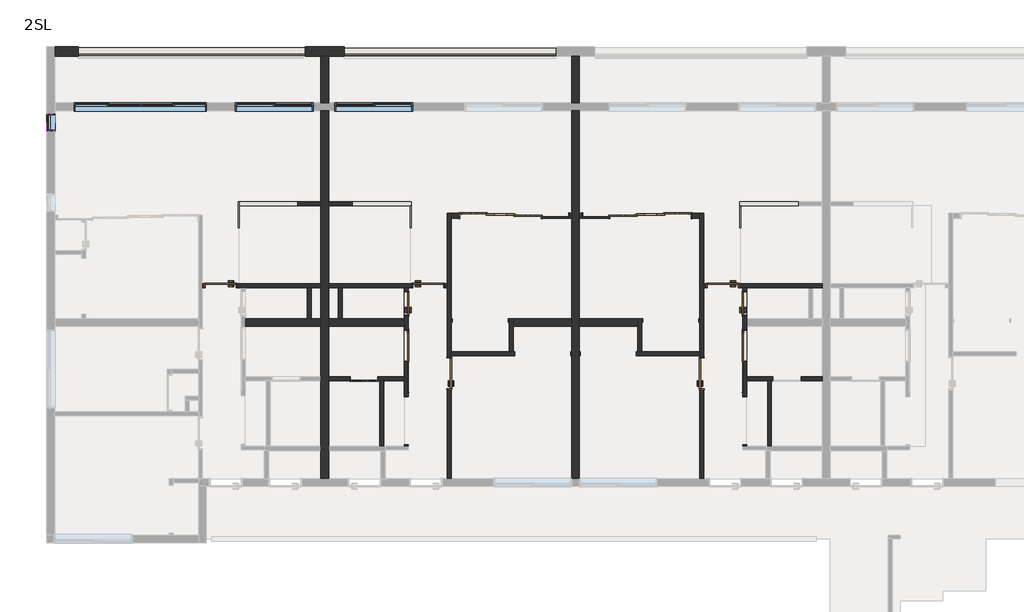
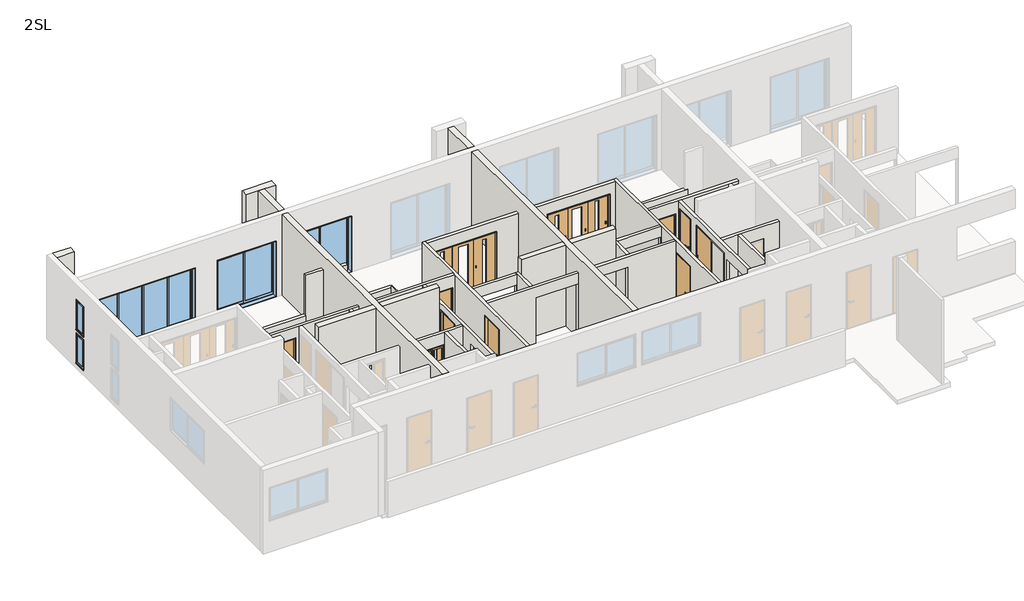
# One storey, part 2 of 3: 37 walls, 12 doors, 5 windows, 2 plates.
"""IFC4 building model written with IfcOpenShell, lengths in millimetres."""

from ifc_helpers import new_model, si_unit, frame, origin, place, context, project, spatial, polyline, outline, extrude, faceted_brep, transform, mapped, element, save
from components import door_a3db7c72, door_c7dcdbed, door_8f2de950, door_3b96e66a, door_aabc7979, door_3f60c47c, door_12b42705, door_31a51f76, door_d265da5f, system_panel_37aab131, system_panel_5692cc67, window_4c3e1407, window_a2a98c4b, window_ec430ee0, window_7edd47ae, w0450_h1100_93ba837a

model = new_model("IFC4")

# Units and contexts
model_context = context("Model", 3, world=origin())
ifc_project = project(units=[si_unit("LENGTHUNIT", "METRE", prefix="MILLI")], contexts=[model_context])

# Site, building, storey
site = spatial("IfcSite", under=ifc_project)
building = spatial("IfcBuilding", under=site)
storey = spatial("IfcBuildingStorey", under=building, Name="2SL", Elevation=4000.0)

# Doors
placement = place(None, origin())
door_shape = door_a3db7c72(model_context)
element("IfcDoor", 1, ObjectType="木製_片開き_フラッシュ : WD-2 w600h2000", at=placement, inside=storey, context=model_context, shape_type="MappedRepresentation", body=[
    mapped(door_shape, transform((7254.3805905, 3696.254513, 4210.0), x_axis=(0.0, 1.0, 0.0), y_axis=(-1.0, 0.0, 0.0), z_axis=(0.0, 0.0, 1.0))),
])
door_2_shape = door_c7dcdbed(model_context)
element("IfcDoor", 2, ObjectType="木製_片開き_フラッシュ : WD-2 w600h2000", at=placement, inside=storey, context=model_context, shape_type="MappedRepresentation", body=[
    mapped(door_2_shape, transform((-1445.6194095, 3696.254513, 4210.0), x_axis=(0.0, 1.0, 0.0), y_axis=(-1.0, 0.0, 0.0), z_axis=(0.0, 0.0, 1.0))),
])
door_3_shape = door_8f2de950(model_context)
element("IfcDoor", 3, ObjectType="木製_片開き_フラッシュ : WD-1\u3000w800h2000", at=placement, inside=storey, context=model_context, shape_type="MappedRepresentation", body=[
    mapped(door_3_shape, transform((-6225.6194095, 4160.2598658, 4060.0), x_axis=(-1.0, 0.0, 0.0), y_axis=(0.0, -1.0, 0.0), z_axis=(0.0, 0.0, 1.0))),
])
element("IfcDoor", 4, ObjectType="木製_片開き_フラッシュ : WD-1\u3000w800h2000", at=placement, inside=storey, context=model_context, shape_type="MappedRepresentation", body=[
    mapped(door_3_shape, transform((-345.6194095, 1900.2598658, 4060.0), x_axis=(0.0, 1.0, 0.0), y_axis=(-1.0, 0.0, 0.0), z_axis=(0.0, 0.0, 1.0))),
])
element("IfcDoor", 5, ObjectType="木製_片開き_フラッシュ : WD-1\u3000w800h2000", at=placement, inside=storey, context=model_context, shape_type="MappedRepresentation", body=[
    mapped(door_3_shape, transform((6694.3805905, 4160.2598658, 4000.0), x_axis=(-1.0, 0.0, 0.0), y_axis=(0.0, -1.0, 0.0), z_axis=(0.0, 0.0, 1.0))),
])
door_4_shape = door_3b96e66a(model_context)
element("IfcDoor", 6, ObjectType="木製_片開き_フラッシュ : WD-1\u3000w800h2000", at=placement, inside=storey, context=model_context, shape_type="MappedRepresentation", body=[
    mapped(door_4_shape, transform((-885.6194095, 4160.2598658, 4000.0), x_axis=(1.0, 0.0, 0.0), y_axis=(0.0, 1.0, 0.0), z_axis=(0.0, 0.0, 1.0))),
])
element("IfcDoor", 7, ObjectType="木製_片開き_フラッシュ : WD-1\u3000w800h2000", at=placement, inside=storey, context=model_context, shape_type="MappedRepresentation", body=[
    mapped(door_4_shape, transform((6154.3805905, 1900.2598658, 4060.0), x_axis=(0.0, 1.0, 0.0), y_axis=(-1.0, 0.0, 0.0), z_axis=(0.0, 0.0, 1.0))),
])
door_5_shape = door_aabc7979(model_context)
element("IfcDoor", 8, ObjectType="木製_折戸2枚_フラッシュ(UB) : UB-1 w600h2000", at=placement, inside=storey, context=model_context, shape_type="MappedRepresentation", body=[
    mapped(door_5_shape, transform((-2535.6194095, 1760.2598658, 4000.0), x_axis=(-1.0, 0.0, 0.0), y_axis=(0.0, -1.0, 0.0), z_axis=(0.0, 0.0, 1.0))),
])
door_6_shape = door_3f60c47c(model_context)
element("IfcDoor", 9, ObjectType="木製_片引き_フラッシュ : WD-4 w800h2000", at=placement, inside=storey, context=model_context, shape_type="MappedRepresentation", body=[
    mapped(door_6_shape, transform((-1445.6194095, 2610.719009, 4210.0), x_axis=(0.0, -1.0, 0.0), y_axis=(1.0, 0.0, 0.0), z_axis=(0.0, 0.0, 1.0))),
])
door_7_shape = door_12b42705(model_context)
element("IfcDoor", 10, ObjectType="木製_片引き_フラッシュ : WD-4 w800h2000", at=placement, inside=storey, context=model_context, shape_type="MappedRepresentation", body=[
    mapped(door_7_shape, transform((7254.3805905, 2610.719009, 4210.0), x_axis=(0.0, -1.0, 0.0), y_axis=(1.0, 0.0, 0.0), z_axis=(0.0, 0.0, 1.0))),
])
door_8_shape = door_31a51f76(model_context)
element("IfcDoor", 11, ObjectType="木製_片引き3枚_フラッシュ2 : WD-9 w2100h2000", at=placement, inside=storey, context=model_context, shape_type="MappedRepresentation", body=[
    mapped(door_8_shape, transform((979.9160944, 5960.2598658, 4060.0), x_axis=(1.0, 0.0, 0.0), y_axis=(0.0, 1.0, 0.0), z_axis=(0.0, 0.0, 1.0))),
])
door_9_shape = door_d265da5f(model_context)
element("IfcDoor", 12, ObjectType="木製_片引き3枚_フラッシュ2 : WD-9 w2100h2000", at=placement, inside=storey, context=model_context, shape_type="MappedRepresentation", body=[
    mapped(door_9_shape, transform((4828.8450865, 5960.2598658, 4060.0), x_axis=(-1.0, 0.0, 0.0), y_axis=(0.0, -1.0, 0.0), z_axis=(0.0, 0.0, 1.0))),
])

# Plates
system_panel_shape = system_panel_37aab131(model_context)
element("IfcPlate", 13, ObjectType="システム パネル : System Panel", at=placement, inside=storey, context=model_context, shape_type="MappedRepresentation", body=[
    mapped(system_panel_shape, transform((-320.6194095, 10097.7598658, 4000.0), x_axis=(-1.0, 0.0, 0.0), y_axis=(0.0, -1.0, 0.0), z_axis=(0.0, 0.0, 1.0))),
])
system_panel_2_shape = system_panel_5692cc67(model_context)
element("IfcPlate", 14, ObjectType="システム パネル : System Panel", at=placement, inside=storey, context=model_context, shape_type="MappedRepresentation", body=[
    mapped(system_panel_2_shape, transform((-6970.6194095, 10097.7598658, 4000.0), x_axis=(1.0, 0.0, 0.0), y_axis=(0.0, 1.0, 0.0), z_axis=(0.0, 0.0, 1.0))),
])

# Walls
element("IfcWall", 15, ObjectType="(F)30", at=placement, inside=storey, context=model_context, shape_type="Brep", body=[
    faceted_brep([(-5775.1194095, 6315.254513, 4113.4303939), (-5775.1194095, 5645.254513, 4113.4303939), (-5775.1194095, 5645.254513, 5060.0), (-5775.1194095, 6315.254513, 5060.0), (-5745.1194095, 6315.254513, 4113.4303939), (-5745.1194095, 6315.254513, 5060.0), (-5745.1194095, 6215.254513, 5060.0), (-5745.1194095, 5645.254513, 5060.0), (-5745.1194095, 5645.254513, 4113.4303939)], [[[0, 1, 2, 3]], [[4, 5, 6, 7, 8]], [[1, 0, 4, 8]], [[2, 1, 8, 7]], [[3, 2, 7, 6, 5]], [[0, 3, 5, 4]]]),
])
element("IfcWall", 16, ObjectType="(F)30", at=placement, inside=storey, context=model_context, shape_type="Brep", body=[
    faceted_brep([(-1346.1194095, 6215.254513, 4060.0), (-1346.1194095, 5645.254513, 4060.0), (-1346.1194095, 5645.254513, 5120.0), (-1346.1194095, 6215.254513, 5120.0), (-1316.1194095, 6215.254513, 4060.0), (-1316.1194095, 6215.254513, 5060.0), (-1316.1194095, 6215.254513, 5120.0), (-1316.1194095, 5645.254513, 5120.0), (-1316.1194095, 5645.254513, 4060.0)], [[[0, 1, 2, 3]], [[4, 5, 6, 7, 8]], [[1, 0, 4, 8]], [[2, 1, 8, 7]], [[3, 2, 7, 6]], [[0, 3, 6, 5, 4]]]),
])
element("IfcWall", 17, ObjectType="(F)30", at=placement, inside=storey, context=model_context, shape_type="Brep", body=[
    faceted_brep([(7124.8805905, 6215.254513, 4060.0), (7124.8805905, 5645.254513, 4060.0), (7124.8805905, 5645.254513, 5120.0), (7124.8805905, 6215.254513, 5120.0), (7124.8805905, 6215.254513, 5060.0), (7154.8805905, 6215.254513, 4060.0), (7154.8805905, 6215.254513, 5120.0), (7154.8805905, 5645.254513, 5120.0), (7154.8805905, 5645.254513, 4060.0)], [[[0, 1, 2, 3, 4]], [[5, 6, 7, 8]], [[1, 0, 5, 8]], [[2, 1, 8, 7]], [[3, 2, 7, 6]], [[0, 4, 3, 6, 5]]]),
])
element("IfcWall", 18, ObjectType="(L)100", at=placement, inside=storey, context=model_context, shape_type="Brep", body=[
    faceted_brep([(-4245.6194095, 6315.254513, 4000.0), (-5745.1194095, 6315.254513, 4000.0), (-5745.1194095, 6315.254513, 4113.4303939), (-5745.1194095, 6315.254513, 5060.0), (-4245.6194095, 6315.254513, 5060.0), (-4245.6194095, 6315.254513, 4100.0), (-4245.6194095, 6215.254513, 4000.0), (-4245.6194095, 6215.254513, 4100.0), (-4245.6194095, 6215.254513, 5060.0), (-5745.1194095, 6215.254513, 5060.0), (-5745.1194095, 6215.254513, 4000.0)], [[[0, 1, 2, 3, 4, 5]], [[6, 7, 8, 9, 10]], [[1, 0, 6, 10]], [[4, 3, 9, 8]], [[0, 5, 4, 8, 7, 6]], [[3, 2, 1, 10, 9]]]),
])
element("IfcWall", 19, ObjectType="(L)100", at=placement, inside=storey, context=model_context, shape_type="SweptSolid", body=[
    extrude(outline(polyline([(-3995.6194095, 3310.2598658), (-3995.6194095, 4110.2598658), (-3895.6194095, 4110.2598658), (-3895.6194095, 3310.2598658), (-3995.6194095, 3310.2598658)])), frame((0.0, 0.0, 4000.0), z_axis=(0.0, 0.0, 1.0), x_axis=(1.0, 0.0, 0.0)), (0.0, 0.0, 1.0), 2460.0),
])
element("IfcWall", 20, ObjectType="(L)100", at=placement, inside=storey, context=model_context, shape_type="Brep", body=[
    faceted_brep([(-3645.6194095, 4210.2598658, 4060.0), (-5805.6194095, 4210.2598658, 4060.0), (-5805.6194095, 4210.2598658, 6080.0), (-6645.6194095, 4210.2598658, 6080.0), (-6645.6194095, 4210.2598658, 4060.0), (-6695.6194095, 4210.2598658, 4060.0), (-6695.6194095, 4210.2598658, 6460.0), (-3645.6194095, 4210.2598658, 6460.0), (-5805.6194095, 4110.2598658, 6080.0), (-5805.6194095, 4110.2598658, 4060.0), (-5695.6194095, 4110.2598658, 4060.0), (-5595.6194095, 4110.2598658, 4060.0), (-3645.6194095, 4110.2598658, 4060.0), (-3645.6194095, 4110.2598658, 6460.0), (-3895.6194095, 4110.2598658, 6460.0), (-3995.6194095, 4110.2598658, 6460.0), (-5595.6194095, 4110.2598658, 6460.0), (-5695.6194095, 4110.2598658, 6460.0), (-6695.6194095, 4110.2598658, 6460.0), (-6695.6194095, 4110.2598658, 4060.0), (-6645.6194095, 4110.2598658, 4060.0), (-6645.6194095, 4110.2598658, 6080.0)], [[[0, 1, 2, 3, 4, 5, 6, 7]], [[8, 9, 10, 11, 12, 13, 14, 15, 16, 17, 18, 19, 20, 21]], [[12, 11, 10, 9, 1, 0]], [[20, 19, 5, 4]], [[7, 6, 18, 17, 16, 15, 14, 13]], [[0, 7, 13, 12]], [[6, 5, 19, 18]], [[4, 3, 21, 20]], [[2, 1, 9, 8]], [[3, 2, 8, 21]]]),
])
element("IfcWall", 21, ObjectType="(L)100", at=placement, inside=storey, context=model_context, shape_type="Brep", body=[
    faceted_brep([(-395.6194095, 1480.2598658, 6080.0), (-395.6194095, 1480.2598658, 4060.0), (-395.6194095, -809.7401342, 4060.0), (-395.6194095, -809.7401342, 6460.0), (-395.6194095, 4110.2598658, 6460.0), (-395.6194095, 4210.2598658, 6460.0), (-395.6194095, 6022.7598658, 6460.0), (-395.6194095, 6022.7598658, 4060.0), (-395.6194095, 2320.2598658, 4060.0), (-395.6194095, 2320.2598658, 6080.0), (-295.6194095, -809.7401342, 4060.0), (-295.6194095, 1480.2598658, 4060.0), (-295.6194095, 1480.2598658, 6080.0), (-295.6194095, 2320.2598658, 6080.0), (-295.6194095, 2320.2598658, 4060.0), (-295.6194095, 2360.2598658, 4060.0), (-295.6194095, 2460.2598658, 4060.0), (-295.6194095, 5897.7598658, 4060.0), (-295.6194095, 6022.7598658, 4060.0), (-295.6194095, 6022.7598658, 6460.0), (-295.6194095, 5897.7598658, 6460.0), (-295.6194095, 3310.2598658, 6460.0), (-295.6194095, 3210.2598658, 6460.0), (-295.6194095, 2460.2598658, 6460.0), (-295.6194095, 2360.2598658, 6460.0), (-295.6194095, -809.7401342, 6460.0)], [[[0, 1, 2, 3, 4, 5, 6, 7, 8, 9]], [[10, 11, 12, 13, 14, 15, 16, 17, 18, 19, 20, 21, 22, 23, 24, 25]], [[2, 1, 11, 10]], [[8, 7, 18, 17, 16, 15, 14]], [[6, 5, 4, 3, 25, 24, 23, 22, 21, 20, 19]], [[7, 6, 19, 18]], [[3, 2, 10, 25]], [[14, 13, 9, 8]], [[12, 11, 1, 0]], [[13, 12, 0, 9]]]),
])
element("IfcWall", 22, ObjectType="(L)100", at=placement, inside=storey, context=model_context, shape_type="Brep", body=[
    faceted_brep([(2804.3805905, 2460.2598658, 4060.0), (2784.3805905, 2460.2598658, 4060.0), (2784.3805905, 2460.2598658, 6080.0), (1344.3805905, 2460.2598658, 6080.0), (1344.3805905, 2460.2598658, 4060.0), (-295.6194095, 2460.2598658, 4060.0), (-295.6194095, 2460.2598658, 6460.0), (1204.3805905, 2460.2598658, 6460.0), (1304.3805905, 2460.2598658, 6460.0), (2804.3805905, 2460.2598658, 6460.0), (2784.3805905, 2360.2598658, 6080.0), (2784.3805905, 2360.2598658, 4060.0), (2804.3805905, 2360.2598658, 4060.0), (2804.3805905, 2360.2598658, 6460.0), (-295.6194095, 2360.2598658, 6460.0), (-295.6194095, 2360.2598658, 4060.0), (1344.3805905, 2360.2598658, 4060.0), (1344.3805905, 2360.2598658, 6080.0)], [[[0, 1, 2, 3, 4, 5, 6, 7, 8, 9]], [[10, 11, 12, 13, 14, 15, 16, 17]], [[12, 11, 1, 0]], [[16, 15, 5, 4]], [[9, 8, 7, 6, 14, 13]], [[0, 9, 13, 12]], [[6, 5, 15, 14]], [[4, 3, 17, 16]], [[2, 1, 11, 10]], [[3, 2, 10, 17]]]),
])
element("IfcWall", 23, ObjectType="(L)100", at=placement, inside=storey, context=model_context, shape_type="Brep", body=[
    faceted_brep([(1204.3805905, 3310.2598658, 4000.0), (1204.3805905, 3210.2598658, 4000.0), (1204.3805905, 2460.2598658, 4000.0), (1204.3805905, 2460.2598658, 6460.0), (1204.3805905, 3210.2598658, 6460.0), (1204.3805905, 3310.2598658, 6460.0), (1304.3805905, 3310.2598658, 4000.0), (1304.3805905, 3310.2598658, 6460.0), (1304.3805905, 2460.2598658, 6460.0), (1304.3805905, 2460.2598658, 4000.0), (1304.3805905, 3110.2598658, 4000.0)], [[[0, 1, 2, 3, 4, 5]], [[6, 7, 8, 9, 10]], [[2, 1, 0, 6, 10, 9]], [[5, 4, 3, 8, 7]], [[0, 5, 7, 6]], [[3, 2, 9, 8]]]),
])
element("IfcWall", 24, ObjectType="(L)100", at=placement, inside=storey, context=model_context, shape_type="Brep", body=[
    faceted_brep([(-1395.6194095, 4110.2598658, 6460.0), (-1395.6194095, 30.2598658, 6460.0), (-1395.6194095, 30.2598658, 4060.0), (-1395.6194095, 60.2598658, 4060.0), (-1395.6194095, 60.2598658, 6080.0), (-1395.6194095, 1300.2598658, 6080.0), (-1395.6194095, 1300.2598658, 4060.0), (-1395.6194095, 4110.2598658, 4060.0), (-1395.6194095, 1396.254513, 6230.0), (-1395.6194095, 3036.254513, 6230.0), (-1395.6194095, 3036.254513, 4210.0), (-1395.6194095, 1396.254513, 4210.0), (-1395.6194095, 4016.254513, 6230.0), (-1395.6194095, 4016.254513, 4210.0), (-1395.6194095, 3376.254513, 4210.0), (-1395.6194095, 3376.254513, 6230.0), (-1495.6194095, 30.2598658, 6460.0), (-1495.6194095, 1710.2598658, 6460.0), (-1495.6194095, 1810.2598658, 6460.0), (-1495.6194095, 4110.2598658, 6460.0), (-1495.6194095, 4110.2598658, 4060.0), (-1495.6194095, 1300.2598658, 4060.0), (-1495.6194095, 1300.2598658, 6080.0), (-1495.6194095, 60.2598658, 6080.0), (-1495.6194095, 60.2598658, 4060.0), (-1495.6194095, 30.2598658, 4060.0), (-1495.6194095, 3036.254513, 6230.0), (-1495.6194095, 2196.254513, 6230.0), (-1495.6194095, 2196.254513, 4210.0), (-1495.6194095, 3036.254513, 4210.0), (-1495.6194095, 4016.254513, 4210.0), (-1495.6194095, 4016.254513, 6230.0), (-1495.6194095, 3376.254513, 6230.0), (-1495.6194095, 3376.254513, 4210.0), (-1425.6194095, 1396.254513, 6230.0), (-1425.6194095, 2196.254513, 6230.0), (-1425.6194095, 2196.254513, 4210.0), (-1425.6194095, 1396.254513, 4210.0)], [[[0, 1, 2, 3, 4, 5, 6, 7], [8, 9, 10, 11], [12, 13, 14, 15]], [[16, 17, 18, 19, 20, 21, 22, 23, 24, 25], [26, 27, 28, 29], [30, 31, 32, 33]], [[20, 7, 6, 21]], [[2, 25, 24, 3]], [[1, 0, 19, 18, 17, 16]], [[0, 7, 20, 19]], [[2, 1, 16, 25]], [[5, 22, 21, 6]], [[23, 4, 3, 24]], [[22, 5, 4, 23]], [[34, 35, 27, 26, 9, 8]], [[9, 26, 29, 10]], [[36, 37, 11, 10, 29, 28]], [[35, 36, 28, 27]], [[35, 34, 37, 36]], [[37, 34, 8, 11]], [[12, 31, 30, 13]], [[13, 30, 33, 14]], [[14, 33, 32, 15]], [[31, 12, 15, 32]]]),
])
element("IfcWall", 25, ObjectType="(L)100", at=placement, inside=storey, context=model_context, shape_type="SweptSolid", body=[
    extrude(outline(polyline([(-3445.6194095, 6315.254513), (-2845.6194095, 6315.254513), (-2845.6194095, 6215.254513), (-3445.6194095, 6215.254513), (-3445.6194095, 6315.254513)])), frame((0.0, 0.0, 4000.0), z_axis=(0.0, 0.0, 1.0), x_axis=(1.0, 0.0, 0.0)), (0.0, 0.0, 1.0), 2400.0),
])
element("IfcWall", 26, ObjectType="(L)100", at=placement, inside=storey, context=model_context, shape_type="Brep", body=[
    faceted_brep([(-2920.6194095, 6215.254513, 4060.0), (-1346.1194095, 6215.254513, 4060.0), (-1316.1194095, 6215.254513, 4060.0), (-1316.1194095, 6215.254513, 5060.0), (-2920.6194095, 6215.254513, 5060.0), (-2920.6194095, 6315.254513, 4060.0), (-2920.6194095, 6315.254513, 5060.0), (-1316.1194095, 6315.254513, 5060.0), (-1316.1194095, 6315.254513, 4060.0)], [[[0, 1, 2, 3, 4]], [[5, 6, 7, 8]], [[2, 1, 0, 5, 8]], [[4, 3, 7, 6]], [[0, 4, 6, 5]], [[3, 2, 8, 7]]]),
])
element("IfcWall", 27, ObjectType="(L)100", at=placement, inside=storey, context=model_context, shape_type="SweptSolid", body=[
    extrude(outline(polyline([(-3195.6194095, 3310.2598658), (-3195.6194095, 4110.2598658), (-3095.6194095, 4110.2598658), (-3095.6194095, 3310.2598658), (-3195.6194095, 3310.2598658)])), frame((0.0, 0.0, 4000.0), z_axis=(0.0, 0.0, 1.0), x_axis=(1.0, 0.0, 0.0)), (0.0, 0.0, 1.0), 2460.0),
])
element("IfcWall", 28, ObjectType="(L)100", at=placement, inside=storey, context=model_context, shape_type="Brep", body=[
    faceted_brep([(-2165.6194095, 1710.2598658, 6020.0), (-2165.6194095, 1710.2598658, 4000.0), (-2135.6194095, 1710.2598658, 4000.0), (-2035.6194095, 1710.2598658, 4000.0), (-1495.6194095, 1710.2598658, 4000.0), (-1495.6194095, 1710.2598658, 6460.0), (-2035.6194095, 1710.2598658, 6460.0), (-2135.6194095, 1710.2598658, 6460.0), (-3445.6194095, 1710.2598658, 6460.0), (-3445.6194095, 1710.2598658, 4000.0), (-2905.6194095, 1710.2598658, 4000.0), (-2905.6194095, 1710.2598658, 6020.0), (-1495.6194095, 1810.2598658, 4000.0), (-2165.6194095, 1810.2598658, 4000.0), (-2165.6194095, 1810.2598658, 6020.0), (-2905.6194095, 1810.2598658, 6020.0), (-2905.6194095, 1810.2598658, 4000.0), (-3445.6194095, 1810.2598658, 4000.0), (-3445.6194095, 1810.2598658, 6460.0), (-1495.6194095, 1810.2598658, 6460.0)], [[[0, 1, 2, 3, 4, 5, 6, 7, 8, 9, 10, 11]], [[12, 13, 14, 15, 16, 17, 18, 19]], [[4, 3, 2, 1, 13, 12]], [[10, 9, 17, 16]], [[8, 7, 6, 5, 19, 18]], [[5, 4, 12, 19]], [[9, 8, 18, 17]], [[16, 15, 11, 10]], [[14, 13, 1, 0]], [[15, 14, 0, 11]]]),
])
element("IfcWall", 29, ObjectType="(L)100", at=placement, inside=storey, context=model_context, shape_type="Brep", body=[
    faceted_brep([(-3445.6194095, 4110.2598658, 4000.0), (-3195.6194095, 4110.2598658, 4000.0), (-3095.6194095, 4110.2598658, 4000.0), (-1305.6194095, 4110.2598658, 4000.0), (-1305.6194095, 4110.2598658, 6020.0), (-465.6194095, 4110.2598658, 6020.0), (-465.6194095, 4110.2598658, 4000.0), (-395.6194095, 4110.2598658, 4000.0), (-395.6194095, 4110.2598658, 6460.0), (-1395.6194095, 4110.2598658, 6460.0), (-1495.6194095, 4110.2598658, 6460.0), (-3095.6194095, 4110.2598658, 6460.0), (-3195.6194095, 4110.2598658, 6460.0), (-3445.6194095, 4110.2598658, 6460.0), (-1305.6194095, 4210.2598658, 6020.0), (-1305.6194095, 4210.2598658, 4000.0), (-3445.6194095, 4210.2598658, 4000.0), (-3445.6194095, 4210.2598658, 6460.0), (-395.6194095, 4210.2598658, 6460.0), (-395.6194095, 4210.2598658, 4000.0), (-465.6194095, 4210.2598658, 4000.0), (-465.6194095, 4210.2598658, 6020.0)], [[[0, 1, 2, 3, 4, 5, 6, 7, 8, 9, 10, 11, 12, 13]], [[14, 15, 16, 17, 18, 19, 20, 21]], [[16, 15, 3, 2, 1, 0]], [[20, 19, 7, 6]], [[13, 12, 11, 10, 9, 8, 18, 17]], [[8, 7, 19, 18]], [[0, 13, 17, 16]], [[6, 5, 21, 20]], [[4, 3, 15, 14]], [[5, 4, 14, 21]]]),
])
element("IfcWall", 30, ObjectType="(L)100", at=placement, inside=storey, context=model_context, shape_type="Brep", body=[
    faceted_brep([(-4245.6194095, 6215.254513, 4100.0), (-3645.6194095, 6215.254513, 4100.0), (-3645.6194095, 6215.254513, 6500.0), (-4245.6194095, 6215.254513, 6500.0), (-4245.6194095, 6215.254513, 5060.0), (-4245.6194095, 6315.254513, 4100.0), (-4245.6194095, 6315.254513, 5060.0), (-4245.6194095, 6315.254513, 6500.0), (-3645.6194095, 6315.254513, 6500.0), (-3645.6194095, 6315.254513, 4100.0)], [[[0, 1, 2, 3, 4]], [[5, 6, 7, 8, 9]], [[1, 0, 5, 9]], [[3, 2, 8, 7]], [[0, 4, 3, 7, 6, 5]], [[2, 1, 9, 8]]]),
])
element("IfcWall", 31, ObjectType="(L)100", at=placement, inside=storey, context=model_context, shape_type="SweptSolid", body=[
    extrude(outline(polyline([(4000.0, -295.6194095), (4000.0, 1204.3805905), (6460.0, 1204.3805905), (6460.0, -295.6194095), (4000.0, -295.6194095)]), holes=[polyline([(4060.0, 1174.3805905), (4060.0, -265.6194095), (6080.0, -265.6194095), (6080.0, 1174.3805905), (4060.0, 1174.3805905)])]), frame((0.0, 3210.2598658, 0.0), z_axis=(0.0, 1.0, 0.0), x_axis=(0.0, 0.0, 1.0)), (0.0, 0.0, 1.0), 100.0),
])
element("IfcWall", 32, ObjectType="(L)100", at=placement, inside=storey, context=model_context, shape_type="SweptSolid", body=[
    extrude(outline(polyline([(-2135.6194095, 30.2598658), (-2135.6194095, 1710.2598658), (-2035.6194095, 1710.2598658), (-2035.6194095, 30.2598658), (-2135.6194095, 30.2598658)])), frame((0.0, 0.0, 4000.0), z_axis=(0.0, 0.0, 1.0), x_axis=(1.0, 0.0, 0.0)), (0.0, 0.0, 1.0), 2460.0),
])
element("IfcWall", 33, ObjectType="(L)100", at=placement, inside=storey, context=model_context, shape_type="Brep", body=[
    faceted_brep([(6104.3805905, 1480.2598658, 6080.0), (6104.3805905, 1480.2598658, 4060.0), (6104.3805905, -809.7401342, 4060.0), (6104.3805905, -809.7401342, 6460.0), (6104.3805905, 2360.2598658, 6460.0), (6104.3805905, 2460.2598658, 6460.0), (6104.3805905, 3210.2598658, 6460.0), (6104.3805905, 3310.2598658, 6460.0), (6104.3805905, 5897.7598658, 6460.0), (6104.3805905, 6022.7598658, 6460.0), (6104.3805905, 6022.7598658, 4060.0), (6104.3805905, 5897.7598658, 4060.0), (6104.3805905, 2460.2598658, 4060.0), (6104.3805905, 2360.2598658, 4060.0), (6104.3805905, 2320.2598658, 4060.0), (6104.3805905, 2320.2598658, 6080.0), (6204.3805905, -809.7401342, 4060.0), (6204.3805905, 1480.2598658, 4060.0), (6204.3805905, 1480.2598658, 6080.0), (6204.3805905, 2320.2598658, 6080.0), (6204.3805905, 2320.2598658, 4060.0), (6204.3805905, 6022.7598658, 4060.0), (6204.3805905, 6022.7598658, 6460.0), (6204.3805905, 4210.2598658, 6460.0), (6204.3805905, 4110.2598658, 6460.0), (6204.3805905, -809.7401342, 6460.0)], [[[0, 1, 2, 3, 4, 5, 6, 7, 8, 9, 10, 11, 12, 13, 14, 15]], [[16, 17, 18, 19, 20, 21, 22, 23, 24, 25]], [[2, 1, 17, 16]], [[14, 13, 12, 11, 10, 21, 20]], [[9, 8, 7, 6, 5, 4, 3, 25, 24, 23, 22]], [[10, 9, 22, 21]], [[3, 2, 16, 25]], [[20, 19, 15, 14]], [[18, 17, 1, 0]], [[19, 18, 0, 15]]]),
])
element("IfcWall", 34, ObjectType="(L)100", at=placement, inside=storey, context=model_context, shape_type="Brep", body=[
    faceted_brep([(3004.3805905, 2360.2598658, 4060.0), (3024.3805905, 2360.2598658, 4060.0), (3024.3805905, 2360.2598658, 6080.0), (4464.3805905, 2360.2598658, 6080.0), (4464.3805905, 2360.2598658, 4060.0), (6104.3805905, 2360.2598658, 4060.0), (6104.3805905, 2360.2598658, 6460.0), (3004.3805905, 2360.2598658, 6460.0), (3024.3805905, 2460.2598658, 6080.0), (3024.3805905, 2460.2598658, 4060.0), (3004.3805905, 2460.2598658, 4060.0), (3004.3805905, 2460.2598658, 6460.0), (4504.3805905, 2460.2598658, 6460.0), (4604.3805905, 2460.2598658, 6460.0), (6104.3805905, 2460.2598658, 6460.0), (6104.3805905, 2460.2598658, 4060.0), (4464.3805905, 2460.2598658, 4060.0), (4464.3805905, 2460.2598658, 6080.0)], [[[0, 1, 2, 3, 4, 5, 6, 7]], [[8, 9, 10, 11, 12, 13, 14, 15, 16, 17]], [[10, 9, 1, 0]], [[16, 15, 5, 4]], [[7, 6, 14, 13, 12, 11]], [[0, 7, 11, 10]], [[6, 5, 15, 14]], [[4, 3, 17, 16]], [[2, 1, 9, 8]], [[3, 2, 8, 17]]]),
])
element("IfcWall", 35, ObjectType="(L)100", at=placement, inside=storey, context=model_context, shape_type="Brep", body=[
    faceted_brep([(4504.3805905, 3310.2598658, 4000.0), (4504.3805905, 3110.2598658, 4000.0), (4504.3805905, 2460.2598658, 4000.0), (4504.3805905, 2460.2598658, 6460.0), (4504.3805905, 3310.2598658, 6460.0), (4604.3805905, 3310.2598658, 4000.0), (4604.3805905, 3310.2598658, 6460.0), (4604.3805905, 3210.2598658, 6460.0), (4604.3805905, 2460.2598658, 6460.0), (4604.3805905, 2460.2598658, 4000.0), (4604.3805905, 3210.2598658, 4000.0)], [[[0, 1, 2, 3, 4]], [[5, 6, 7, 8, 9, 10]], [[2, 1, 0, 5, 10, 9]], [[4, 3, 8, 7, 6]], [[0, 4, 6, 5]], [[3, 2, 9, 8]]]),
])
element("IfcWall", 36, ObjectType="(L)100", at=placement, inside=storey, context=model_context, shape_type="Brep", body=[
    faceted_brep([(7304.3805905, 4110.2598658, 6460.0), (7304.3805905, 1810.2598658, 6460.0), (7304.3805905, 1710.2598658, 6460.0), (7304.3805905, 30.2598658, 6460.0), (7304.3805905, 30.2598658, 4060.0), (7304.3805905, 60.2598658, 4060.0), (7304.3805905, 60.2598658, 6080.0), (7304.3805905, 1300.2598658, 6080.0), (7304.3805905, 1300.2598658, 4060.0), (7304.3805905, 4110.2598658, 4060.0), (7304.3805905, 2196.254513, 6230.0), (7304.3805905, 3036.254513, 6230.0), (7304.3805905, 3036.254513, 4210.0), (7304.3805905, 2196.254513, 4210.0), (7304.3805905, 4016.254513, 6230.0), (7304.3805905, 4016.254513, 4210.0), (7304.3805905, 3376.254513, 4210.0), (7304.3805905, 3376.254513, 6230.0), (7204.3805905, 30.2598658, 6460.0), (7204.3805905, 4110.2598658, 6460.0), (7204.3805905, 4110.2598658, 4060.0), (7204.3805905, 1300.2598658, 4060.0), (7204.3805905, 1300.2598658, 6080.0), (7204.3805905, 60.2598658, 6080.0), (7204.3805905, 60.2598658, 4060.0), (7204.3805905, 30.2598658, 4060.0), (7204.3805905, 3036.254513, 6230.0), (7204.3805905, 1396.254513, 6230.0), (7204.3805905, 1396.254513, 4210.0), (7204.3805905, 3036.254513, 4210.0), (7204.3805905, 4016.254513, 4210.0), (7204.3805905, 4016.254513, 6230.0), (7204.3805905, 3376.254513, 6230.0), (7204.3805905, 3376.254513, 4210.0), (7234.3805905, 2196.254513, 6230.0), (7234.3805905, 1396.254513, 6230.0), (7234.3805905, 1396.254513, 4210.0), (7234.3805905, 2196.254513, 4210.0)], [[[0, 1, 2, 3, 4, 5, 6, 7, 8, 9], [10, 11, 12, 13], [14, 15, 16, 17]], [[18, 19, 20, 21, 22, 23, 24, 25], [26, 27, 28, 29], [30, 31, 32, 33]], [[20, 9, 8, 21]], [[4, 25, 24, 5]], [[3, 2, 1, 0, 19, 18]], [[0, 9, 20, 19]], [[4, 3, 18, 25]], [[7, 22, 21, 8]], [[23, 6, 5, 24]], [[22, 7, 6, 23]], [[34, 35, 27, 26, 11, 10]], [[11, 26, 29, 12]], [[36, 37, 13, 12, 29, 28]], [[37, 34, 10, 13]], [[35, 34, 37, 36]], [[35, 36, 28, 27]], [[14, 31, 30, 15]], [[15, 30, 33, 16]], [[16, 33, 32, 17]], [[31, 14, 17, 32]]]),
])
element("IfcWall", 37, ObjectType="(L)100", at=placement, inside=storey, context=model_context, shape_type="Brep", body=[
    faceted_brep([(8729.3805905, 6315.254513, 4060.0), (7124.8805905, 6315.254513, 4060.0), (7124.8805905, 6315.254513, 5060.0), (8729.3805905, 6315.254513, 5060.0), (8729.3805905, 6215.254513, 4060.0), (8729.3805905, 6215.254513, 5060.0), (7124.8805905, 6215.254513, 5060.0), (7124.8805905, 6215.254513, 4060.0), (7154.8805905, 6215.254513, 4060.0)], [[[0, 1, 2, 3]], [[4, 5, 6, 7, 8]], [[1, 0, 4, 8, 7]], [[3, 2, 6, 5]], [[0, 3, 5, 4]], [[2, 1, 7, 6]]]),
])
element("IfcWall", 38, ObjectType="(L)100", at=placement, inside=storey, context=model_context, shape_type="Brep", body=[
    faceted_brep([(7974.3805905, 1810.2598658, 6020.0), (7974.3805905, 1810.2598658, 4000.0), (7304.3805905, 1810.2598658, 4000.0), (7304.3805905, 1810.2598658, 6460.0), (9254.3805905, 1810.2598658, 6460.0), (9254.3805905, 1810.2598658, 4000.0), (8714.3805905, 1810.2598658, 4000.0), (8714.3805905, 1810.2598658, 6020.0), (7304.3805905, 1710.2598658, 4000.0), (7844.3805905, 1710.2598658, 4000.0), (7944.3805905, 1710.2598658, 4000.0), (7974.3805905, 1710.2598658, 4000.0), (7974.3805905, 1710.2598658, 6020.0), (8714.3805905, 1710.2598658, 6020.0), (8714.3805905, 1710.2598658, 4000.0), (9254.3805905, 1710.2598658, 4000.0), (9254.3805905, 1710.2598658, 6460.0), (7944.3805905, 1710.2598658, 6460.0), (7844.3805905, 1710.2598658, 6460.0), (7304.3805905, 1710.2598658, 6460.0)], [[[0, 1, 2, 3, 4, 5, 6, 7]], [[8, 9, 10, 11, 12, 13, 14, 15, 16, 17, 18, 19]], [[2, 1, 11, 10, 9, 8]], [[6, 5, 15, 14]], [[4, 3, 19, 18, 17, 16]], [[5, 4, 16, 15]], [[3, 2, 8, 19]], [[14, 13, 7, 6]], [[12, 11, 1, 0]], [[13, 12, 0, 7]]]),
])
element("IfcWall", 39, ObjectType="(L)100", at=placement, inside=storey, context=model_context, shape_type="Brep", body=[
    faceted_brep([(9254.3805905, 4210.2598658, 4000.0), (7114.3805905, 4210.2598658, 4000.0), (7114.3805905, 4210.2598658, 6020.0), (6274.3805905, 4210.2598658, 6020.0), (6274.3805905, 4210.2598658, 4000.0), (6204.3805905, 4210.2598658, 4000.0), (6204.3805905, 4210.2598658, 6460.0), (9254.3805905, 4210.2598658, 6460.0), (7114.3805905, 4110.2598658, 6020.0), (7114.3805905, 4110.2598658, 4000.0), (8904.3805905, 4110.2598658, 4000.0), (9004.3805905, 4110.2598658, 4000.0), (9254.3805905, 4110.2598658, 4000.0), (9254.3805905, 4110.2598658, 6460.0), (9004.3805905, 4110.2598658, 6460.0), (8904.3805905, 4110.2598658, 6460.0), (7304.3805905, 4110.2598658, 6460.0), (7204.3805905, 4110.2598658, 6460.0), (6204.3805905, 4110.2598658, 6460.0), (6204.3805905, 4110.2598658, 4000.0), (6274.3805905, 4110.2598658, 4000.0), (6274.3805905, 4110.2598658, 6020.0)], [[[0, 1, 2, 3, 4, 5, 6, 7]], [[8, 9, 10, 11, 12, 13, 14, 15, 16, 17, 18, 19, 20, 21]], [[12, 11, 10, 9, 1, 0]], [[20, 19, 5, 4]], [[7, 6, 18, 17, 16, 15, 14, 13]], [[0, 7, 13, 12]], [[6, 5, 19, 18]], [[4, 3, 21, 20]], [[2, 1, 9, 8]], [[3, 2, 8, 21]]]),
])
element("IfcWall", 40, ObjectType="(L)100", at=placement, inside=storey, context=model_context, shape_type="SweptSolid", body=[
    extrude(outline(polyline([(4000.0, 4604.3805905), (4000.0, 6104.3805905), (6460.0, 6104.3805905), (6460.0, 4604.3805905), (4000.0, 4604.3805905)]), holes=[polyline([(4060.0, 6074.3805905), (4060.0, 4634.3805905), (6080.0, 4634.3805905), (6080.0, 6074.3805905), (4060.0, 6074.3805905)])]), frame((0.0, 3210.2598658, 0.0), z_axis=(0.0, 1.0, 0.0), x_axis=(0.0, 0.0, 1.0)), (0.0, 0.0, 1.0), 100.0),
])
element("IfcWall", 41, ObjectType="(L)100", at=placement, inside=storey, context=model_context, shape_type="SweptSolid", body=[
    extrude(outline(polyline([(7844.3805905, 30.2598658), (7844.3805905, 1710.2598658), (7944.3805905, 1710.2598658), (7944.3805905, 30.2598658), (7844.3805905, 30.2598658)])), frame((0.0, 0.0, 4000.0), z_axis=(0.0, 0.0, 1.0), x_axis=(1.0, 0.0, 0.0)), (0.0, 0.0, 1.0), 2460.0),
])
element("IfcWall", 42, ObjectType="(L1)125", at=placement, inside=storey, context=model_context, shape_type="Brep", body=[
    faceted_brep([(2804.3805905, 5897.7598658, 6460.0), (-295.6194095, 5897.7598658, 6460.0), (-295.6194095, 5897.7598658, 4060.0), (-95.6194095, 5897.7598658, 4060.0), (-95.6194095, 5897.7598658, 6080.0), (2044.3805905, 5897.7598658, 6080.0), (2044.3805905, 5897.7598658, 4060.0), (2804.3805905, 5897.7598658, 4060.0), (-295.6194095, 6022.7598658, 6460.0), (2804.3805905, 6022.7598658, 6460.0), (2804.3805905, 6022.7598658, 4060.0), (2744.3805905, 6022.7598658, 4060.0), (2744.3805905, 6022.7598658, 6080.0), (-95.6194095, 6022.7598658, 6080.0), (-95.6194095, 6022.7598658, 4060.0), (-295.6194095, 6022.7598658, 4060.0), (2044.3805905, 5932.7598658, 4060.0), (2744.3805905, 5932.7598658, 4060.0), (2744.3805905, 5932.7598658, 6080.0), (2044.3805905, 5932.7598658, 6080.0)], [[[0, 1, 2, 3, 4, 5, 6, 7]], [[8, 9, 10, 11, 12, 13, 14, 15]], [[10, 7, 6, 16, 17, 11]], [[2, 15, 14, 3]], [[1, 0, 9, 8]], [[0, 7, 10, 9]], [[2, 1, 8, 15]], [[18, 19, 5, 4, 13, 12]], [[13, 4, 3, 14]], [[19, 16, 6, 5]], [[19, 18, 17, 16]], [[17, 18, 12, 11]]]),
])
element("IfcWall", 43, ObjectType="(L1)125", at=placement, inside=storey, context=model_context, shape_type="Brep", body=[
    faceted_brep([(3004.3805905, 6022.7598658, 6460.0), (6104.3805905, 6022.7598658, 6460.0), (6104.3805905, 6022.7598658, 4060.0), (5904.3805905, 6022.7598658, 4060.0), (5904.3805905, 6022.7598658, 6080.0), (3064.3805905, 6022.7598658, 6080.0), (3064.3805905, 6022.7598658, 4060.0), (3004.3805905, 6022.7598658, 4060.0), (6104.3805905, 5897.7598658, 6460.0), (3004.3805905, 5897.7598658, 6460.0), (3004.3805905, 5897.7598658, 4060.0), (3764.3805905, 5897.7598658, 4060.0), (3764.3805905, 5897.7598658, 6080.0), (5904.3805905, 5897.7598658, 6080.0), (5904.3805905, 5897.7598658, 4060.0), (6104.3805905, 5897.7598658, 4060.0), (3064.3805905, 5932.7598658, 4060.0), (3764.3805905, 5932.7598658, 4060.0), (3764.3805905, 5932.7598658, 6080.0), (3064.3805905, 5932.7598658, 6080.0)], [[[0, 1, 2, 3, 4, 5, 6, 7]], [[8, 9, 10, 11, 12, 13, 14, 15]], [[10, 7, 6, 16, 17, 11]], [[2, 15, 14, 3]], [[1, 0, 9, 8]], [[0, 7, 10, 9]], [[2, 1, 8, 15]], [[18, 19, 5, 4, 13, 12]], [[13, 4, 3, 14]], [[17, 18, 12, 11]], [[19, 18, 17, 16]], [[19, 16, 6, 5]]]),
])
element("IfcWall", 44, ObjectType="(R)200", at=placement, inside=storey, context=model_context, shape_type="Brep", body=[
    faceted_brep([(-3445.6194095, -809.7401342, 7000.0), (-3445.6194095, -809.7401342, 4000.0), (-3445.6194095, -89.7401342, 4000.0), (-3445.6194095, 30.2598658, 4000.0), (-3445.6194095, 1710.2598658, 4000.0), (-3445.6194095, 1810.2598658, 4000.0), (-3445.6194095, 3110.2598658, 4000.0), (-3445.6194095, 3310.2598658, 4000.0), (-3445.6194095, 4110.2598658, 4000.0), (-3445.6194095, 4210.2598658, 4000.0), (-3445.6194095, 6215.254513, 4000.0), (-3445.6194095, 6315.254513, 4000.0), (-3445.6194095, 8660.2598658, 4000.0), (-3445.6194095, 8660.2598658, 7000.0), (-3445.6194095, 3310.2598658, 7000.0), (-3445.6194095, 3110.2598658, 7000.0), (-3645.6194095, -809.7401342, 4000.0), (-3645.6194095, -809.7401342, 7000.0), (-3645.6194095, 3110.2598658, 7000.0), (-3645.6194095, 3310.2598658, 7000.0), (-3645.6194095, 8660.2598658, 7000.0), (-3645.6194095, 8660.2598658, 4000.0), (-3645.6194095, 3310.2598658, 4000.0), (-3645.6194095, 3110.2598658, 4000.0), (-3645.6194095, 30.2598658, 4000.0), (-3645.6194095, -89.7401342, 4000.0)], [[[0, 1, 2, 3, 4, 5, 6, 7, 8, 9, 10, 11, 12, 13, 14, 15]], [[16, 17, 18, 19, 20, 21, 22, 23, 24, 25]], [[1, 16, 25, 24, 23, 22, 21, 12, 11, 10, 9, 8, 7, 6, 5, 4, 3, 2]], [[17, 0, 15, 14, 13, 20, 19, 18]], [[1, 0, 17, 16]], [[13, 12, 21, 20]]]),
    faceted_brep([(-3445.6194095, 8860.2598658, 7000.0), (-3445.6194095, 8860.2598658, 4000.0), (-3445.6194095, 10059.9866207, 4000.0), (-3445.6194095, 10059.9866207, 7000.0), (-3645.6194095, 8860.2598658, 4000.0), (-3645.6194095, 8860.2598658, 7000.0), (-3645.6194095, 10059.9866207, 7000.0), (-3645.6194095, 10059.9866207, 4000.0)], [[[0, 1, 2, 3]], [[4, 5, 6, 7]], [[1, 4, 7, 2]], [[5, 0, 3, 6]], [[1, 0, 5, 4]], [[3, 2, 7, 6]]]),
])
element("IfcWall", 45, ObjectType="(R)200", at=placement, inside=storey, context=model_context, shape_type="Brep", body=[
    faceted_brep([(3004.3805905, -809.7401342, 7000.0), (3004.3805905, -809.7401342, 6320.0), (3004.3805905, -809.7401342, 5120.0), (3004.3805905, -809.7401342, 4000.0), (3004.3805905, 3110.2598658, 4000.0), (3004.3805905, 3310.2598658, 4000.0), (3004.3805905, 8660.2598658, 4000.0), (3004.3805905, 8660.2598658, 7000.0), (3004.3805905, 3310.2598658, 7000.0), (3004.3805905, 3110.2598658, 7000.0), (2804.3805905, -809.7401342, 4000.0), (2804.3805905, -809.7401342, 5120.0), (2804.3805905, -809.7401342, 6320.0), (2804.3805905, -809.7401342, 7000.0), (2804.3805905, 3110.2598658, 7000.0), (2804.3805905, 3310.2598658, 7000.0), (2804.3805905, 8660.2598658, 7000.0), (2804.3805905, 8660.2598658, 4000.0), (2804.3805905, 3310.2598658, 4000.0), (2804.3805905, 3110.2598658, 4000.0)], [[[0, 1, 2, 3, 4, 5, 6, 7, 8, 9]], [[10, 11, 12, 13, 14, 15, 16, 17, 18, 19]], [[3, 10, 19, 18, 17, 6, 5, 4]], [[13, 0, 9, 8, 7, 16, 15, 14]], [[3, 2, 1, 0, 13, 12, 11, 10]], [[7, 6, 17, 16]]]),
    faceted_brep([(3004.3805905, 8860.2598658, 7000.0), (3004.3805905, 8860.2598658, 4000.0), (3004.3805905, 10059.9866207, 4000.0), (3004.3805905, 10059.9866207, 7000.0), (2804.3805905, 8860.2598658, 4000.0), (2804.3805905, 8860.2598658, 7000.0), (2804.3805905, 10059.9866207, 7000.0), (2804.3805905, 10059.9866207, 4000.0)], [[[0, 1, 2, 3]], [[4, 5, 6, 7]], [[1, 4, 7, 2]], [[5, 0, 3, 6]], [[1, 0, 5, 4]], [[3, 2, 7, 6]]]),
])
element("IfcWall", 46, ObjectType="(R)200", at=placement, inside=storey, context=model_context, shape_type="Brep", body=[
    faceted_brep([(1304.3805905, 3110.2598658, 7000.0), (1304.3805905, 3110.2598658, 4000.0), (2804.3805905, 3110.2598658, 4000.0), (2804.3805905, 3110.2598658, 7000.0), (1304.3805905, 3310.2598658, 4000.0), (1304.3805905, 3310.2598658, 6460.0), (1304.3805905, 3310.2598658, 7000.0), (2804.3805905, 3310.2598658, 7000.0), (2804.3805905, 3310.2598658, 4000.0)], [[[0, 1, 2, 3]], [[4, 5, 6, 7, 8]], [[1, 4, 8, 2]], [[6, 0, 3, 7]], [[1, 0, 6, 5, 4]], [[3, 2, 8, 7]]]),
    faceted_brep([(4504.3805905, 3110.2598658, 4000.0), (4504.3805905, 3110.2598658, 7000.0), (3004.3805905, 3110.2598658, 7000.0), (3004.3805905, 3110.2598658, 4000.0), (4504.3805905, 3310.2598658, 7000.0), (4504.3805905, 3310.2598658, 6460.0), (4504.3805905, 3310.2598658, 4000.0), (3004.3805905, 3310.2598658, 4000.0), (3004.3805905, 3310.2598658, 7000.0)], [[[0, 1, 2, 3]], [[4, 5, 6, 7, 8]], [[6, 0, 3, 7]], [[1, 4, 8, 2]], [[1, 0, 6, 5, 4]], [[3, 2, 8, 7]]]),
])
element("IfcWall", 47, ObjectType="(R)200", at=placement, inside=storey, context=model_context, shape_type="Brep", body=[
    faceted_brep([(-1495.6194095, 3310.2598658, 7000.0), (-1495.6194095, 3310.2598658, 4000.0), (-3095.6194095, 3310.2598658, 4000.0), (-3195.6194095, 3310.2598658, 4000.0), (-3445.6194095, 3310.2598658, 4000.0), (-3445.6194095, 3310.2598658, 7000.0), (-1495.6194095, 3110.2598658, 4000.0), (-1495.6194095, 3110.2598658, 7000.0), (-3445.6194095, 3110.2598658, 7000.0), (-3445.6194095, 3110.2598658, 4000.0)], [[[0, 1, 2, 3, 4, 5]], [[6, 7, 8, 9]], [[1, 6, 9, 4, 3, 2]], [[7, 0, 5, 8]], [[1, 0, 7, 6]], [[5, 4, 9, 8]]]),
    faceted_brep([(-5595.6194095, 3310.2598658, 4000.0), (-5595.6194095, 3310.2598658, 7000.0), (-3645.6194095, 3310.2598658, 7000.0), (-3645.6194095, 3310.2598658, 4000.0), (-3895.6194095, 3310.2598658, 4000.0), (-3995.6194095, 3310.2598658, 4000.0), (-5595.6194095, 3110.2598658, 7000.0), (-5595.6194095, 3110.2598658, 4000.0), (-3645.6194095, 3110.2598658, 4000.0), (-3645.6194095, 3110.2598658, 7000.0)], [[[0, 1, 2, 3, 4, 5]], [[6, 7, 8, 9]], [[7, 0, 5, 4, 3, 8]], [[1, 6, 9, 2]], [[1, 0, 7, 6]], [[3, 2, 9, 8]]]),
])
element("IfcWall", 48, ObjectType="(R)200", at=placement, inside=storey, context=model_context, shape_type="SweptSolid", body=[
    extrude(outline(polyline([(-4045.6194095, 10084.9866207), (-9895.6194095, 10084.9866207), (-9895.6194095, 10284.9866207), (-4045.6194095, 10284.9866207), (-4045.6194095, 10084.9866207)])), frame((0.0, 0.0, 3250.0), z_axis=(0.0, 0.0, 1.0), x_axis=(1.0, 0.0, 0.0)), (0.0, 0.0, 1.0), 750.0),
])
element("IfcWall", 49, ObjectType="(R)200", at=placement, inside=storey, context=model_context, shape_type="SweptSolid", body=[
    extrude(outline(polyline([(2404.3805905, 10059.9866207), (-3045.6194095, 10059.9866207), (-3045.6194095, 10259.9866207), (2404.3805905, 10259.9866207), (2404.3805905, 10059.9866207)])), frame((0.0, 0.0, 3250.0), z_axis=(0.0, 0.0, 1.0), x_axis=(1.0, 0.0, 0.0)), (0.0, 0.0, 1.0), 750.0),
])
element("IfcWall", 50, ObjectType="(R)250", at=placement, inside=storey, context=model_context, shape_type="Brep", body=[
    faceted_brep([(-4045.6194095, 10059.9866207, 4000.0), (-3645.6194095, 10059.9866207, 4000.0), (-3445.6194095, 10059.9866207, 4000.0), (-3045.6194095, 10059.9866207, 4000.0), (-3045.6194095, 10059.9866207, 6250.0), (-3045.6194095, 10059.9866207, 7000.0), (-3445.6194095, 10059.9866207, 7000.0), (-3645.6194095, 10059.9866207, 7000.0), (-4045.6194095, 10059.9866207, 7000.0), (-4045.6194095, 10309.9866207, 4000.0), (-4045.6194095, 10309.9866207, 7000.0), (-3045.6194095, 10309.9866207, 7000.0), (-3045.6194095, 10309.9866207, 4000.0), (-3045.6194095, 10259.9866207, 7000.0), (-4045.6194095, 10284.9866207, 7000.0), (-4045.6194095, 10084.9866207, 7000.0)], [[[0, 1, 2, 3, 4, 5, 6, 7, 8]], [[9, 10, 11, 12]], [[3, 2, 1, 0, 9, 12]], [[5, 4, 3, 12, 11, 13]], [[8, 7, 6, 5, 13, 11, 10, 14, 15]], [[0, 8, 15, 14, 10, 9]]]),
])
element("IfcWall", 51, ObjectType="(R)250", at=placement, inside=storey, context=model_context, shape_type="Brep", body=[
    faceted_brep([(-10495.6194095, 10059.9866207, 4000.0), (-9895.6194095, 10059.9866207, 4000.0), (-9895.6194095, 10059.9866207, 7000.0), (-10495.6194095, 10059.9866207, 7000.0), (-10495.6194095, 10309.9866207, 4000.0), (-10495.6194095, 10309.9866207, 7000.0), (-9895.6194095, 10309.9866207, 7000.0), (-9895.6194095, 10309.9866207, 4000.0), (-9895.6194095, 10284.9866207, 7000.0), (-9895.6194095, 10084.9866207, 7000.0)], [[[0, 1, 2, 3]], [[4, 5, 6, 7]], [[1, 0, 4, 7]], [[2, 1, 7, 6, 8, 9]], [[3, 2, 9, 8, 6, 5]], [[0, 3, 5, 4]]]),
])

# Windows
window_shape = window_4c3e1407(model_context)
element("IfcWindow", 52, ObjectType="窓-開き-内付 : AW-1 w0450 h1100", at=placement, inside=storey, context=model_context, shape_type="MappedRepresentation", body=[
    mapped(window_shape, transform((-10595.6194095, 8355.2598658, 4180.0), x_axis=(0.0, 1.0, 0.0), y_axis=(-1.0, 0.0, 0.0), z_axis=(0.0, 0.0, 1.0))),
])
window_2_shape = window_a2a98c4b(model_context)
element("IfcWindow", 53, ObjectType="窓-引違掃出2枚-内付 : AW-3 w2000 h2000", at=placement, inside=storey, context=model_context, shape_type="MappedRepresentation", body=[
    mapped(window_2_shape, transform((-4845.6194095, 8760.2598658, 4120.0), x_axis=(1.0, 0.0, 0.0), y_axis=(0.0, 1.0, 0.0), z_axis=(0.0, 0.0, 1.0))),
])
window_3_shape = window_ec430ee0(model_context)
element("IfcWindow", 54, ObjectType="窓-引違掃出2枚-内付 : AW-3 w2000 h2000", at=placement, inside=storey, context=model_context, shape_type="MappedRepresentation", body=[
    mapped(window_3_shape, transform((-2285.6194095, 8760.2598658, 4120.0), x_axis=(-1.0, 0.0, 0.0), y_axis=(0.0, -1.0, 0.0), z_axis=(0.0, 0.0, 1.0))),
])
window_4_shape = window_7edd47ae(model_context)
element("IfcWindow", 55, ObjectType="窓-引違掃出4枚2溝-内付 : AW-2 w3400 h2000", at=placement, inside=storey, context=model_context, shape_type="MappedRepresentation", body=[
    mapped(window_4_shape, transform((-8294.6785744, 8760.2598658, 4120.0), x_axis=(1.0, 0.0, 0.0), y_axis=(0.0, 1.0, 0.0), z_axis=(0.0, 0.0, 1.0))),
])
w0450_h1100_shape = w0450_h1100_93ba837a(model_context)
element("IfcWindow", 56, ObjectType="窓-Fix-内付 : w0450 h1100", at=placement, inside=storey, context=model_context, shape_type="MappedRepresentation", body=[
    mapped(w0450_h1100_shape, transform((-10595.6194095, 8355.2598658, 4120.0), x_axis=(0.0, 1.0, 0.0), y_axis=(-1.0, 0.0, 0.0), z_axis=(0.0, 0.0, 1.0))),
])

save(model, "model.ifc")
